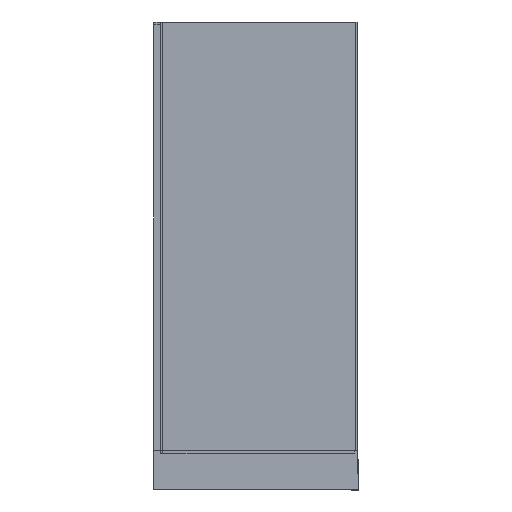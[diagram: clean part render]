
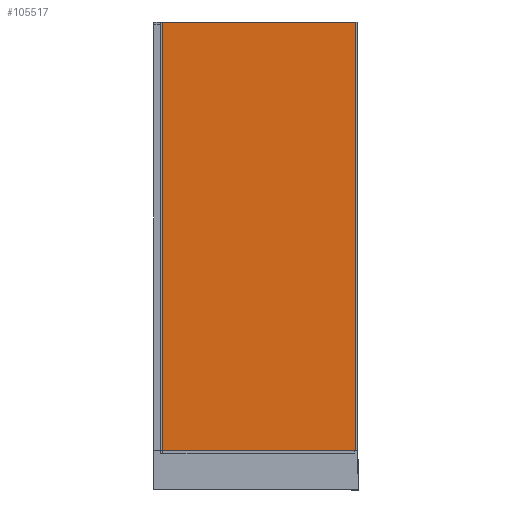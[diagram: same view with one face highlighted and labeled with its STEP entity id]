
A CAD part, left-side view. The second image highlights one B-rep face of the part: STEP entity #105517.
In plain terms, the highlighted free-form (B-spline) face has degree [1, 1] with [2, 2] control points.
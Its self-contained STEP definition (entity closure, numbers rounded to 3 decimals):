
#105156=CARTESIAN_POINT('',(-899.187,-888.39,168.06));
#105157=VERTEX_POINT('',#105156);
#105158=CARTESIAN_POINT('',(-899.187,-894.39,174.06));
#105159=VERTEX_POINT('',#105158);
#105160=CARTESIAN_POINT('',(-899.187,-888.39,168.06));
#105161=CARTESIAN_POINT('',(-899.187,-888.39,174.06));
#105162=CARTESIAN_POINT('',(-899.187,-894.39,174.06));
#105170=(BOUNDED_CURVE()B_SPLINE_CURVE(2,(#105160,#105161,#105162),.UNSPECIFIED.,.F.,.U.)CURVE()GEOMETRIC_REPRESENTATION_ITEM()QUASI_UNIFORM_CURVE()RATIONAL_B_SPLINE_CURVE((1.0,0.707,1.0))REPRESENTATION_ITEM(''));
#105171=EDGE_CURVE('',#105157,#105159,#105170,.T.);
#105212=CARTESIAN_POINT('',(-899.187,-888.39,163.06));
#105213=VERTEX_POINT('',#105212);
#105227=CARTESIAN_POINT('',(-899.187,-888.39,163.06));
#105228=DIRECTION('',(0.0,0.0,1.0));
#105229=VECTOR('',#105228,5.);
#105230=LINE('',#105227,#105229);
#105231=EDGE_CURVE('',#105213,#105157,#105230,.T.);
#105478=CARTESIAN_POINT('',(-899.187,-894.509,162.941));
#105479=CARTESIAN_POINT('',(-899.187,-894.509,2063.178));
#105480=CARTESIAN_POINT('',(-899.187,-43.293,162.941));
#105481=CARTESIAN_POINT('',(-899.187,-43.293,2063.178));
#105482=B_SPLINE_SURFACE_WITH_KNOTS('',1,1,((#105478,#105480),(#105479,#105481)),.UNSPECIFIED.,.F.,.F.,.U.,(2,2),(2,2),(1.237,1901.474),(8.711,859.926),.UNSPECIFIED.);
#105483=CARTESIAN_POINT('',(-899.187,-43.412,163.06));
#105484=VERTEX_POINT('',#105483);
#105485=CARTESIAN_POINT('',(-899.187,-43.412,163.06));
#105486=DIRECTION('',(0.,-1.,0.0));
#105487=VECTOR('',#105486,844.978);
#105488=LINE('',#105485,#105487);
#105489=EDGE_CURVE('',#105484,#105213,#105488,.T.);
#105490=ORIENTED_EDGE('',*,*,#105489,.T.);
#105491=ORIENTED_EDGE('',*,*,#105231,.T.);
#105492=ORIENTED_EDGE('',*,*,#105171,.T.);
#105493=CARTESIAN_POINT('',(-899.187,-894.39,2063.06));
#105494=VERTEX_POINT('',#105493);
#105495=CARTESIAN_POINT('',(-899.187,-894.39,174.06));
#105496=DIRECTION('',(0.0,0.0,1.0));
#105497=VECTOR('',#105496,1889.);
#105498=LINE('',#105495,#105497);
#105499=EDGE_CURVE('',#105159,#105494,#105498,.T.);
#105500=ORIENTED_EDGE('',*,*,#105499,.T.);
#105501=CARTESIAN_POINT('',(-899.187,-43.412,2063.06));
#105502=VERTEX_POINT('',#105501);
#105503=CARTESIAN_POINT('',(-899.187,-894.39,2063.06));
#105504=DIRECTION('',(0.,1.,0.0));
#105505=VECTOR('',#105504,850.978);
#105506=LINE('',#105503,#105505);
#105507=EDGE_CURVE('',#105494,#105502,#105506,.T.);
#105508=ORIENTED_EDGE('',*,*,#105507,.T.);
#105509=CARTESIAN_POINT('',(-899.187,-43.412,2063.06));
#105510=DIRECTION('',(0.0,0.0,-1.0));
#105511=VECTOR('',#105510,1900.0);
#105512=LINE('',#105509,#105511);
#105513=EDGE_CURVE('',#105502,#105484,#105512,.T.);
#105514=ORIENTED_EDGE('',*,*,#105513,.T.);
#105515=EDGE_LOOP('',(#105490,#105491,#105492,#105500,#105508,#105514));
#105516=FACE_OUTER_BOUND('',#105515,.T.);
#105517=ADVANCED_FACE('',(#105516),#105482,.T.);
